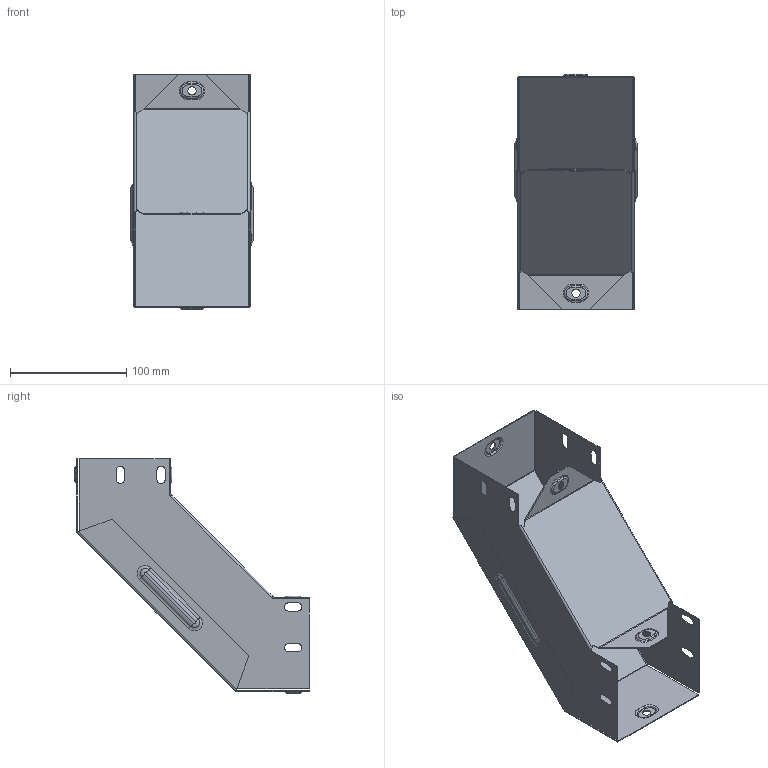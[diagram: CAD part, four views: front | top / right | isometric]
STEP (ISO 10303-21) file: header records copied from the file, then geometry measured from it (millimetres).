
FILE_DESCRIPTION (( 'STEP AP214' ), '1' );
FILE_NAME ('vo9080100_捘.STEP', '2019-06-10T09:08:37', ( '砐錪賧瘔蠈錪 Windows' ), ( '' ), 'SwSTEP 2.0', 'SolidWorks 2018', '' );
FILE_SCHEMA (( 'AUTOMOTIVE_DESIGN' ));
Length unit declared in the file: millimetre
Products named in the file (1): vo9080100_捘
Bounding box: 105.6 x 202.3 x 202.3 mm (x, y, z)
Volume: 77566.8 mm3; surface area: 196036.5 mm2
Topology: 2 solids, 2 shells, 280 faces, 660 edges, 400 vertices
Faces by surface type: cylinder 108, plane 100, torus 64, bspline 8
Entity records: 8251 total; most frequent: CARTESIAN_POINT 1589, DIRECTION 1470, ORIENTED_EDGE 1320, EDGE_CURVE 660, AXIS2_PLACEMENT_3D 569, VERTEX_POINT 400, VECTOR 332, LINE 332
